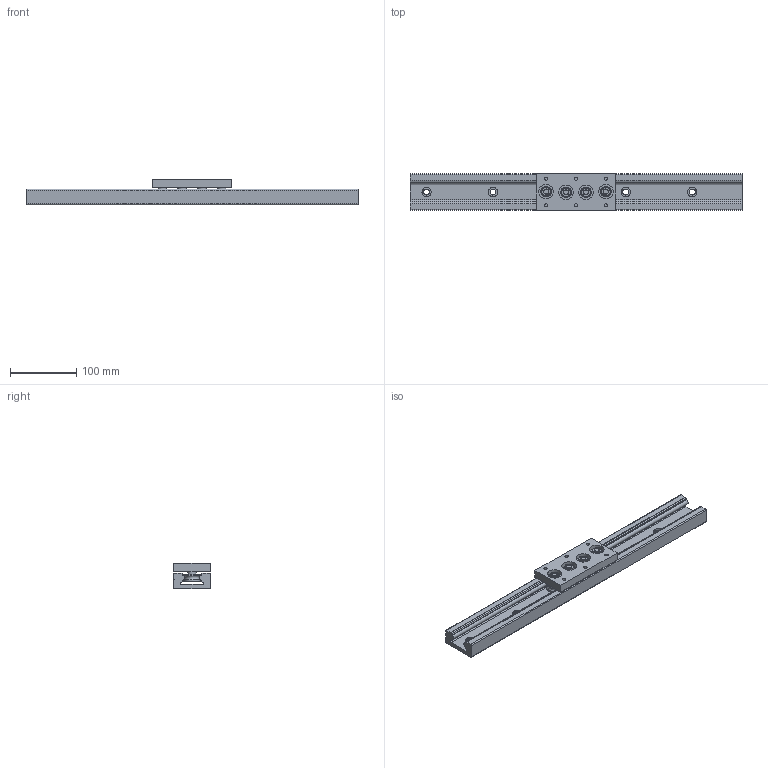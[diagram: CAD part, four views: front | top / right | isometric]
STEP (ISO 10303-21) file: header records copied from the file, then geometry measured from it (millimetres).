
FILE_DESCRIPTION((''),'2;1');
FILE_NAME('C:\Documents and Settings\土屋\My Documents\土屋移動用フォルダ\製品 (図面3D用)\LSダウンロード用図面\LSI5538.stp','2018-10-26T11:34:16',('y'),(''),'Autodesk Inventor 11','Autodesk Inventor 11','');
FILE_SCHEMA(('AUTOMOTIVE_DESIGN { 1 0 10303 214 1 1 1 1 }'));
Length unit declared in the file: millimetre
Products named in the file (3): LSI5538; LSI5538レール; LSI5538キャリッジ
Assembly tree (2 placements, depth 2):
  LSI5538
    LSI5538レール
    LSI5538キャリッジ
Bounding box: 500 x 55 x 38 mm (x, y, z)
Volume: 499567.2 mm3; surface area: 129999.8 mm2
Topology: 2 solids, 2 shells, 192 faces, 426 edges, 267 vertices
Faces by surface type: plane 75, cone 52, cylinder 40, bspline 25
Full cylindrical faces by diameter (mm): 12.3 x4, 16 x4, 22 x4, 24 x8
Entity records: 5561 total; most frequent: CARTESIAN_POINT 1635, DIRECTION 793, ORIENTED_EDGE 754, EDGE_CURVE 377, AXIS2_PLACEMENT_3D 340, EDGE_LOOP 287, VERTEX_POINT 262, FACE_OUTER_BOUND 192
